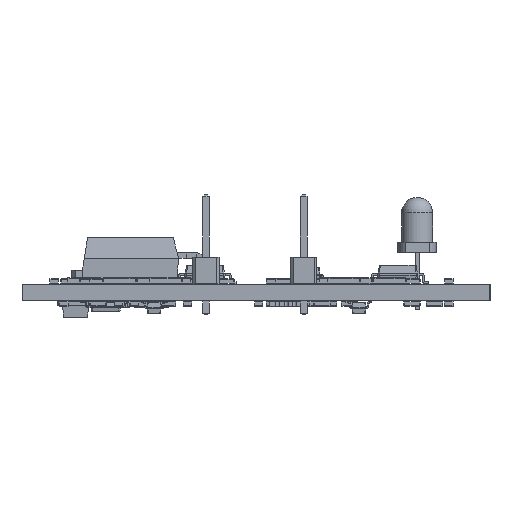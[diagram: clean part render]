
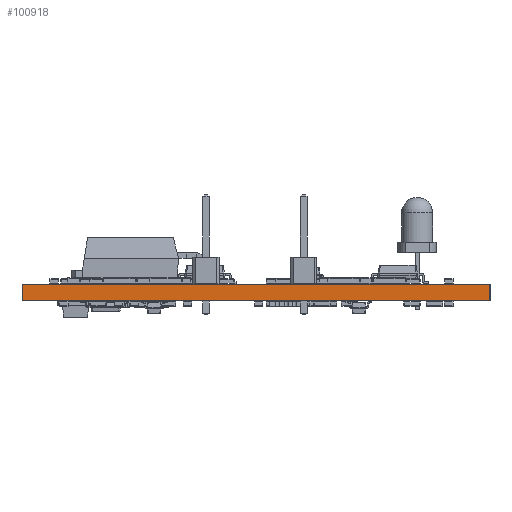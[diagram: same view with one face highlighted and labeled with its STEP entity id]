
A CAD part, left-side view. The second image highlights one B-rep face of the part: STEP entity #100918.
In plain terms, the highlighted planar face has unit normal (-1, 0, 0).
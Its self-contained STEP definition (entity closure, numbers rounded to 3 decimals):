
#100802 = EDGE_CURVE('',#100803,#100805,#100807,.T.);
#100803 = VERTEX_POINT('',#100804);
#100804 = CARTESIAN_POINT('',(51.5,-118.,0.));
#100805 = VERTEX_POINT('',#100806);
#100806 = CARTESIAN_POINT('',(51.5,-118.,1.6));
#100807 = SURFACE_CURVE('',#100808,(#100812,#100824),.PCURVE_S1.);
#100808 = LINE('',#100809,#100810);
#100809 = CARTESIAN_POINT('',(51.5,-118.,0.));
#100810 = VECTOR('',#100811,1.);
#100811 = DIRECTION('',(0.,0.,1.));
#100812 = PCURVE('',#100813,#100818);
#100813 = PLANE('',#100814);
#100814 = AXIS2_PLACEMENT_3D('',#100815,#100816,#100817);
#100815 = CARTESIAN_POINT('',(51.5,-118.,0.));
#100816 = DIRECTION('',(0.,1.,0.));
#100817 = DIRECTION('',(1.,0.,0.));
#100818 = DEFINITIONAL_REPRESENTATION('',(#100819),#100823);
#100819 = LINE('',#100820,#100821);
#100820 = CARTESIAN_POINT('',(0.,0.));
#100821 = VECTOR('',#100822,1.);
#100822 = DIRECTION('',(0.,-1.));
#100823 = ( GEOMETRIC_REPRESENTATION_CONTEXT(2) 
PARAMETRIC_REPRESENTATION_CONTEXT() REPRESENTATION_CONTEXT('2D SPACE',''
  ) );
#100824 = PCURVE('',#100825,#100830);
#100825 = PLANE('',#100826);
#100826 = AXIS2_PLACEMENT_3D('',#100827,#100828,#100829);
#100827 = CARTESIAN_POINT('',(51.5,-73.,0.));
#100828 = DIRECTION('',(1.,0.,0.));
#100829 = DIRECTION('',(0.,-1.,0.));
#100830 = DEFINITIONAL_REPRESENTATION('',(#100831),#100835);
#100831 = LINE('',#100832,#100833);
#100832 = CARTESIAN_POINT('',(45.,0.));
#100833 = VECTOR('',#100834,1.);
#100834 = DIRECTION('',(0.,-1.));
#100835 = ( GEOMETRIC_REPRESENTATION_CONTEXT(2) 
PARAMETRIC_REPRESENTATION_CONTEXT() REPRESENTATION_CONTEXT('2D SPACE',''
  ) );
#100853 = PLANE('',#100854);
#100854 = AXIS2_PLACEMENT_3D('',#100855,#100856,#100857);
#100855 = CARTESIAN_POINT('',(51.5,-118.,1.6));
#100856 = DIRECTION('',(0.,0.,-1.));
#100857 = DIRECTION('',(-1.,0.,0.));
#100907 = PLANE('',#100908);
#100908 = AXIS2_PLACEMENT_3D('',#100909,#100910,#100911);
#100909 = CARTESIAN_POINT('',(51.5,-118.,0.));
#100910 = DIRECTION('',(0.,0.,-1.));
#100911 = DIRECTION('',(-1.,0.,0.));
#100918 = ADVANCED_FACE('',(#100919),#100825,.F.);
#100919 = FACE_BOUND('',#100920,.F.);
#100920 = EDGE_LOOP('',(#100921,#100951,#100972,#100973));
#100921 = ORIENTED_EDGE('',*,*,#100922,.T.);
#100922 = EDGE_CURVE('',#100923,#100925,#100927,.T.);
#100923 = VERTEX_POINT('',#100924);
#100924 = CARTESIAN_POINT('',(51.5,-73.,0.));
#100925 = VERTEX_POINT('',#100926);
#100926 = CARTESIAN_POINT('',(51.5,-73.,1.6));
#100927 = SURFACE_CURVE('',#100928,(#100932,#100939),.PCURVE_S1.);
#100928 = LINE('',#100929,#100930);
#100929 = CARTESIAN_POINT('',(51.5,-73.,0.));
#100930 = VECTOR('',#100931,1.);
#100931 = DIRECTION('',(0.,0.,1.));
#100932 = PCURVE('',#100825,#100933);
#100933 = DEFINITIONAL_REPRESENTATION('',(#100934),#100938);
#100934 = LINE('',#100935,#100936);
#100935 = CARTESIAN_POINT('',(0.,0.));
#100936 = VECTOR('',#100937,1.);
#100937 = DIRECTION('',(0.,-1.));
#100938 = ( GEOMETRIC_REPRESENTATION_CONTEXT(2) 
PARAMETRIC_REPRESENTATION_CONTEXT() REPRESENTATION_CONTEXT('2D SPACE',''
  ) );
#100939 = PCURVE('',#100940,#100945);
#100940 = PLANE('',#100941);
#100941 = AXIS2_PLACEMENT_3D('',#100942,#100943,#100944);
#100942 = CARTESIAN_POINT('',(100.,-73.,0.));
#100943 = DIRECTION('',(0.,-1.,0.));
#100944 = DIRECTION('',(-1.,0.,0.));
#100945 = DEFINITIONAL_REPRESENTATION('',(#100946),#100950);
#100946 = LINE('',#100947,#100948);
#100947 = CARTESIAN_POINT('',(48.5,0.));
#100948 = VECTOR('',#100949,1.);
#100949 = DIRECTION('',(0.,-1.));
#100950 = ( GEOMETRIC_REPRESENTATION_CONTEXT(2) 
PARAMETRIC_REPRESENTATION_CONTEXT() REPRESENTATION_CONTEXT('2D SPACE',''
  ) );
#100951 = ORIENTED_EDGE('',*,*,#100952,.T.);
#100952 = EDGE_CURVE('',#100925,#100805,#100953,.T.);
#100953 = SURFACE_CURVE('',#100954,(#100958,#100965),.PCURVE_S1.);
#100954 = LINE('',#100955,#100956);
#100955 = CARTESIAN_POINT('',(51.5,-73.,1.6));
#100956 = VECTOR('',#100957,1.);
#100957 = DIRECTION('',(0.,-1.,0.));
#100958 = PCURVE('',#100825,#100959);
#100959 = DEFINITIONAL_REPRESENTATION('',(#100960),#100964);
#100960 = LINE('',#100961,#100962);
#100961 = CARTESIAN_POINT('',(0.,-1.6));
#100962 = VECTOR('',#100963,1.);
#100963 = DIRECTION('',(1.,0.));
#100964 = ( GEOMETRIC_REPRESENTATION_CONTEXT(2) 
PARAMETRIC_REPRESENTATION_CONTEXT() REPRESENTATION_CONTEXT('2D SPACE',''
  ) );
#100965 = PCURVE('',#100853,#100966);
#100966 = DEFINITIONAL_REPRESENTATION('',(#100967),#100971);
#100967 = LINE('',#100968,#100969);
#100968 = CARTESIAN_POINT('',(0.,45.));
#100969 = VECTOR('',#100970,1.);
#100970 = DIRECTION('',(0.,-1.));
#100971 = ( GEOMETRIC_REPRESENTATION_CONTEXT(2) 
PARAMETRIC_REPRESENTATION_CONTEXT() REPRESENTATION_CONTEXT('2D SPACE',''
  ) );
#100972 = ORIENTED_EDGE('',*,*,#100802,.F.);
#100973 = ORIENTED_EDGE('',*,*,#100974,.F.);
#100974 = EDGE_CURVE('',#100923,#100803,#100975,.T.);
#100975 = SURFACE_CURVE('',#100976,(#100980,#100987),.PCURVE_S1.);
#100976 = LINE('',#100977,#100978);
#100977 = CARTESIAN_POINT('',(51.5,-73.,0.));
#100978 = VECTOR('',#100979,1.);
#100979 = DIRECTION('',(0.,-1.,0.));
#100980 = PCURVE('',#100825,#100981);
#100981 = DEFINITIONAL_REPRESENTATION('',(#100982),#100986);
#100982 = LINE('',#100983,#100984);
#100983 = CARTESIAN_POINT('',(0.,0.));
#100984 = VECTOR('',#100985,1.);
#100985 = DIRECTION('',(1.,0.));
#100986 = ( GEOMETRIC_REPRESENTATION_CONTEXT(2) 
PARAMETRIC_REPRESENTATION_CONTEXT() REPRESENTATION_CONTEXT('2D SPACE',''
  ) );
#100987 = PCURVE('',#100907,#100988);
#100988 = DEFINITIONAL_REPRESENTATION('',(#100989),#100993);
#100989 = LINE('',#100990,#100991);
#100990 = CARTESIAN_POINT('',(0.,45.));
#100991 = VECTOR('',#100992,1.);
#100992 = DIRECTION('',(0.,-1.));
#100993 = ( GEOMETRIC_REPRESENTATION_CONTEXT(2) 
PARAMETRIC_REPRESENTATION_CONTEXT() REPRESENTATION_CONTEXT('2D SPACE',''
  ) );
